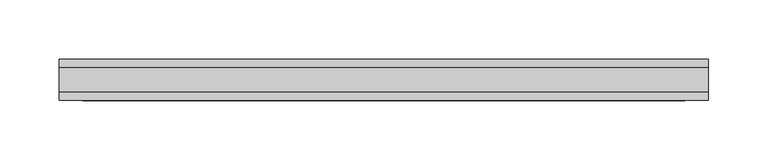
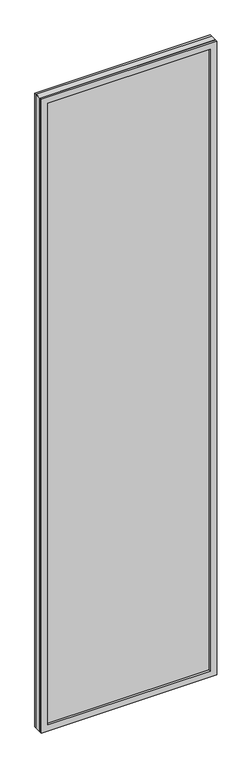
"""IFC4 building model written with IfcOpenShell, lengths in millimetres: plate geometry, ARQ-PA-IN-Vidrio Fijo : ARQ-PA-IN-Vidrio Fijo."""

import ifcopenshell
import ifcopenshell.guid

model = None  # the IFC model being written
_history = None  # IfcOwnerHistory: only IFC2X3 demands one
_inside = {}  # id of a spatial element -> (the spatial element, [elements in it])
_under = {}  # id of a project, library or spatial element -> (it, [spatial elements below it])
_declared = {}  # id of a project -> (the project, [libraries it declares])
_typed = {}  # id of a type object -> (the type object, [elements of that type])
_made_of = {}  # id of a material, layer set ... -> (it, [elements and type objects made of it])


def new_model(schema):
    """Start an empty IFC model of exactly this schema.

    Asked for "IFC4X3", IfcOpenShell would pick the latest addendum, in which some entities
    have other attributes; the version numbers below select the first issue.
    IFC2X3 requires an IfcOwnerHistory on every rooted entity: one is made here for all.
    """
    global model, _history
    if schema == "IFC4X3":
        model = ifcopenshell.file(schema_version=(4, 3, 0, 0))
    else:
        model = ifcopenshell.file(schema=schema)
    _inside.clear()
    _under.clear()
    _declared.clear()
    _typed.clear()
    _made_of.clear()
    _history = None
    if model.schema == "IFC2X3":
        org = make("IfcOrganization", Name="unknown")
        user = make(
            "IfcPersonAndOrganization",
            ThePerson=make("IfcPerson", FamilyName="unknown"),
            TheOrganization=org,
        )
        app = make(
            "IfcApplication",
            ApplicationDeveloper=org,
            Version="unknown",
            ApplicationFullName="unknown",
            ApplicationIdentifier="unknown",
        )
        _history = make(
            "IfcOwnerHistory",
            OwningUser=user,
            OwningApplication=app,
            ChangeAction="ADDED",
            CreationDate=0,
        )
    return model


def make(cls, **values):
    """One entity of the class cls with the attributes given. An attribute that is None is left unset."""
    return model.create_entity(
        cls, **{name: value for name, value in values.items() if value is not None}
    )


def rooted(cls, **values):
    """An entity with a GlobalId (a new one), such as an element, a storey or a relation."""
    return make(cls, GlobalId=ifcopenshell.guid.new(), OwnerHistory=_history, **values)


def si_unit(unit_type, name, prefix=None):
    """IfcSIUnit, for example si_unit("LENGTHUNIT", "METRE", prefix="MILLI")."""
    return make("IfcSIUnit", UnitType=unit_type, Prefix=prefix, Name=name)


def assignment(units):
    """IfcUnitAssignment: the units of a project."""
    return None if units is None else make("IfcUnitAssignment", Units=units)


def point(xyz):
    """IfcCartesianPoint."""
    return None if xyz is None else make("IfcCartesianPoint", Coordinates=xyz)


def direction(xyz):
    """IfcDirection."""
    return None if xyz is None else make("IfcDirection", DirectionRatios=xyz)


def frame(location, z_axis=None, x_axis=None):
    """IfcAxis2Placement3D, a coordinate frame: its origin and axes. An axis left out is left unset."""
    return make(
        "IfcAxis2Placement3D",
        Location=point(location),
        Axis=direction(z_axis),
        RefDirection=direction(x_axis),
    )


def origin():
    """The frame at (0, 0, 0) with its axes left unset."""
    return frame((0.0, 0.0, 0.0))


def origin_with_axes():
    """The frame at (0, 0, 0) with the z axis (0, 0, 1) and the x axis (1, 0, 0) written out."""
    return frame((0.0, 0.0, 0.0), z_axis=(0.0, 0.0, 1.0), x_axis=(1.0, 0.0, 0.0))


def place(relative_to, where):
    """IfcLocalPlacement: puts the frame where relative to a parent placement (None: the world)."""
    return make(
        "IfcLocalPlacement", PlacementRelTo=relative_to, RelativePlacement=where
    )


def context(
    kind, dimensions, precision=None, world=None, true_north=None, identifier=None
):
    """IfcGeometricRepresentationContext, for example the 3D "Model" context."""
    return make(
        "IfcGeometricRepresentationContext",
        ContextIdentifier=identifier,
        ContextType=kind,
        CoordinateSpaceDimension=dimensions,
        Precision=precision,
        WorldCoordinateSystem=world,
        TrueNorth=true_north,
    )


def project(units=None, contexts=None):
    """IfcProject with its units and contexts."""
    return rooted(
        "IfcProject",
        Name="project",
        RepresentationContexts=contexts,
        UnitsInContext=assignment(units),
    )


def spatial(cls, under=None, at=None, **own):
    """A site, building, storey or space (cls), placed at a placement, below another one or the project."""
    s = rooted(cls, ObjectPlacement=at, **own)
    if under is not None:
        _under.setdefault(under.id(), (under, []))[1].append(s)
    return s


def polyline(points):
    """IfcPolyline through the points."""
    return make("IfcPolyline", Points=[point(p) for p in points])


def outline(outer, holes=None, kind="AREA"):
    """IfcArbitraryClosedProfileDef: a profile drawn as a closed curve; with holes, ...WithVoids."""
    if holes is None:
        return make("IfcArbitraryClosedProfileDef", ProfileType=kind, OuterCurve=outer)
    return make(
        "IfcArbitraryProfileDefWithVoids",
        ProfileType=kind,
        OuterCurve=outer,
        InnerCurves=holes,
    )


def extrude(swept, where, along, depth):
    """IfcExtrudedAreaSolid: the profile swept, set in the frame where, extruded along a direction by depth."""
    return make(
        "IfcExtrudedAreaSolid",
        SweptArea=swept,
        Position=where,
        ExtrudedDirection=direction(along),
        Depth=depth,
    )


def shape(context_of_items, identifier, shape_type, items):
    """IfcShapeRepresentation: the items that make up one representation, for example the "Body"."""
    return make(
        "IfcShapeRepresentation",
        ContextOfItems=context_of_items,
        RepresentationIdentifier=identifier,
        RepresentationType=shape_type,
        Items=items,
    )


def source(mapping_origin, context_of_items, identifier, shape_type, items):
    """IfcRepresentationMap: a shape defined once, which mapped items show again and again."""
    return make(
        "IfcRepresentationMap",
        MappingOrigin=mapping_origin,
        MappedRepresentation=shape(context_of_items, identifier, shape_type, items),
    )


def transform(
    local_origin,
    x_axis=None,
    y_axis=None,
    z_axis=None,
    scale=None,
    scale2=None,
    scale3=None,
    uniform=True,
):
    """IfcCartesianTransformationOperator3D, or its non-uniform kind. x_axis, y_axis, z_axis: its Axis1, 2, 3."""
    if uniform:
        return make(
            "IfcCartesianTransformationOperator3D",
            Axis1=direction(x_axis),
            Axis2=direction(y_axis),
            LocalOrigin=point(local_origin),
            Scale=scale,
            Axis3=direction(z_axis),
        )
    return make(
        "IfcCartesianTransformationOperator3DnonUniform",
        Axis1=direction(x_axis),
        Axis2=direction(y_axis),
        LocalOrigin=point(local_origin),
        Scale=scale,
        Axis3=direction(z_axis),
        Scale2=scale2,
        Scale3=scale3,
    )


def mapped(mapping_source, mapping_target):
    """IfcMappedItem: shows the shape of a source again, moved by a transform."""
    return make(
        "IfcMappedItem", MappingSource=mapping_source, MappingTarget=mapping_target
    )


def made_of(thing, what):
    """Note that an element or type object is made of a material, layer set ...; save() writes the relation."""
    if what is not None:
        _made_of.setdefault(what.id(), (what, []))[1].append(thing)
    return thing


def element(
    cls,
    number,
    at=None,
    inside=None,
    cuts=None,
    type_object=None,
    material=None,
    context=None,
    identifier="Body",
    shape_type=None,
    held_by="IfcProductDefinitionShape",
    body=None,
    shapes=None,
    **own,
):
    """One element of the class cls, such as IfcWall. Its Tag is "e" and its number.

    at: its placement. inside: the storey or other place that contains it. cuts: it is an
    opening in that element (IfcRelVoidsElement). A single representation is given by context,
    identifier, shape_type and body (its items); several are given by shapes. held_by: the class
    of the entity that holds the representations. save() writes the other relations.
    """
    e = rooted(cls, Tag="e%d" % number, ObjectPlacement=at, **own)
    if body is not None:
        shapes = [shape(context, identifier, shape_type, body)]
    if shapes is not None:
        e.Representation = make(held_by, Representations=shapes)
    if inside is not None:
        _inside.setdefault(inside.id(), (inside, []))[1].append(e)
    if cuts is not None:
        rooted(
            "IfcRelVoidsElement", RelatingBuildingElement=cuts, RelatedOpeningElement=e
        )
    if type_object is not None:
        _typed.setdefault(type_object.id(), (type_object, []))[1].append(e)
    return made_of(e, material)


def aggregate(whole, parts):
    """IfcRelAggregates: a whole, such as a stair, and the parts it consists of."""
    return rooted("IfcRelAggregates", RelatingObject=whole, RelatedObjects=parts)


def save(model, path):
    """Write the relations noted so far, then the file.

    IfcRelAggregates (storeys below a building ...), IfcRelContainedInSpatialStructure (elements
    in a storey), IfcRelDefinesByType, IfcRelAssociatesMaterial and IfcRelDeclares: one each for
    every whole, place, type object, material and project.
    """
    for whole, parts in _under.values():
        aggregate(whole, parts)
    for where, things in _inside.values():
        rooted(
            "IfcRelContainedInSpatialStructure",
            RelatedElements=things,
            RelatingStructure=where,
        )
    for kind, things in _typed.values():
        rooted("IfcRelDefinesByType", RelatedObjects=things, RelatingType=kind)
    for what, things in _made_of.values():
        rooted("IfcRelAssociatesMaterial", RelatedObjects=things, RelatingMaterial=what)
    for by, libraries in _declared.values():
        rooted("IfcRelDeclares", RelatingContext=by, RelatedDefinitions=libraries)
    model.write(path)


def plate_993824d2(model_context):
    return source(origin(), model_context, "Body", "SweptSolid", [
        extrude(outline(polyline([(275.0, 10.0), (275.0, -10.0), (-275.0, -10.0), (-275.0, 10.0), (275.0, 10.0)])), origin_with_axes(), (0.0, 0.0, 1.0), 2100.0),
        extrude(outline(polyline([(2100.0, -275.0), (0.0, -275.0), (0.0, 275.0), (2100.0, 275.0), (2100.0, -275.0)]), holes=[polyline([(2080.0, -255.0), (2080.0, 255.0), (20.0, 255.0), (20.0, -255.0), (2080.0, -255.0)])]), frame((0.0, -17.5, 0.0), z_axis=(0.0, 1.0, 0.0), x_axis=(0.0, 0.0, 1.0)), (0.0, 0.0, 1.0), 35.0),
    ])


if __name__ == "__main__":
    model = new_model("IFC4")
    model_context = context("Model", 3, world=origin())
    ifc_project = project(units=[si_unit("LENGTHUNIT", "METRE", prefix="MILLI")], contexts=[model_context])
    site = spatial("IfcSite", under=ifc_project)
    building = spatial("IfcBuilding", under=site)
    placement = place(None, origin())
    plate_shape = plate_993824d2(model_context)
    element("IfcPlate", 1, ObjectType="ARQ-PA-IN-Vidrio Fijo : ARQ-PA-IN-Vidrio Fijo", at=placement, inside=building, context=model_context, shape_type="MappedRepresentation", body=[
        mapped(plate_shape, transform((0.0, 0.0, 0.0), x_axis=(1.0, 0.0, 0.0), y_axis=(0.0, 1.0, 0.0), z_axis=(0.0, 0.0, 1.0))),
    ])
    save(model, "model.ifc")
